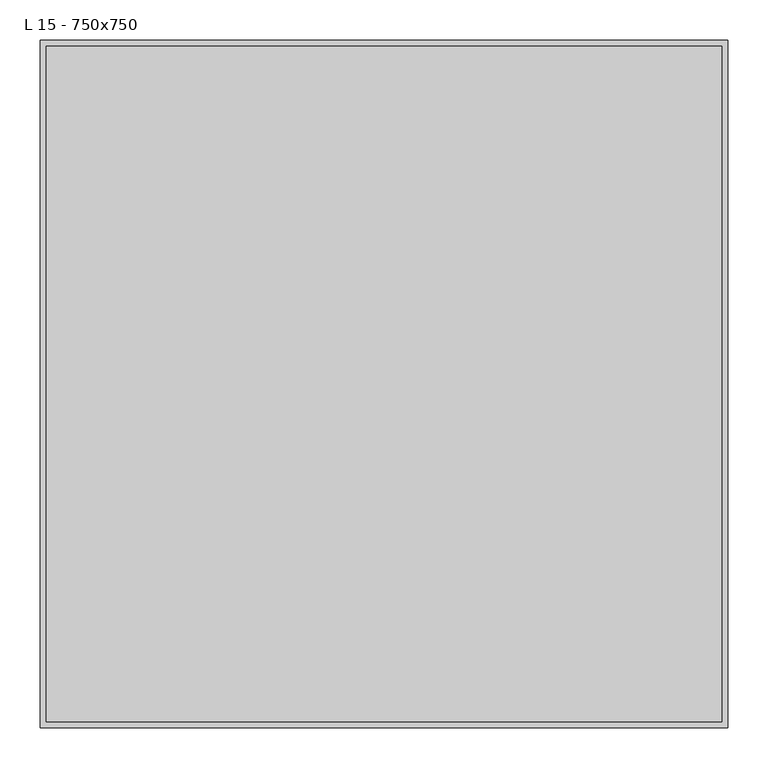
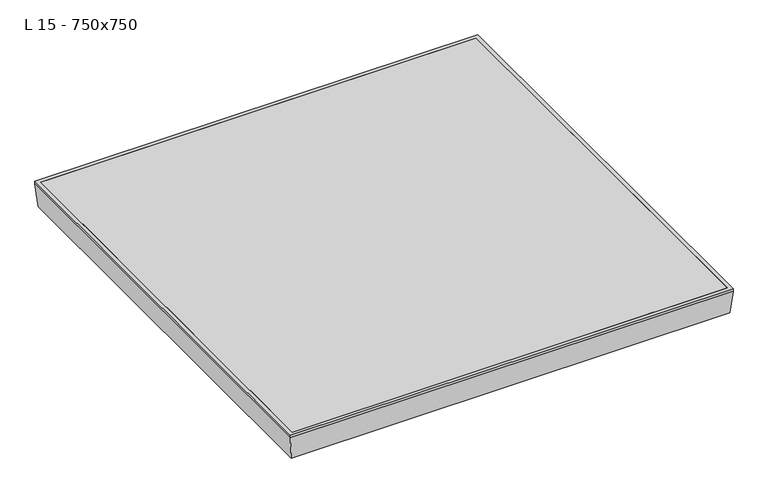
"""IFC4 building model written with IfcOpenShell, lengths in millimetres: proxy geometry, ME_AL_WPB_Access Cover UNIFACE AL_shallow_ACO : L 15 - 750x750."""

from ifc_helpers import new_model, si_unit, frame, origin, place, context, project, spatial, polyline, outline, extrude, faceted_brep, source, transform, mapped, element, save


def l_15_750x750_7d29b803(model_context):
    return source(origin(), model_context, "Body", "SolidModel", [
        extrude(outline(polyline([(375.0, 375.0), (375.0, -375.0), (-375.0, -375.0), (-375.0, 375.0), (375.0, 375.0)])), frame((0.0, 0.0, -50.0), z_axis=(0.0, 0.0, 1.0), x_axis=(1.0, 0.0, 0.0)), (0.0, 0.0, 1.0), 2.0),
        extrude(outline(polyline([(417.9, 417.9), (417.9, -417.9), (-417.9, -417.9), (-417.9, 417.9), (417.9, 417.9)])), frame((0.0, 0.0, -5.0), z_axis=(0.0, 0.0, 1.0), x_axis=(1.0, 0.0, 0.0)), (0.0, 0.0, 1.0), 5.0),
        faceted_brep([(-375.0, 375.0, -50.0), (-375.0, 375.0, -48.0), (-375.0, -375.0, -48.0), (-375.0, -375.0, -50.0), (375.0, -375.0, -48.0), (375.0, -375.0, -50.0), (375.0, 375.0, -48.0), (375.0, 375.0, -50.0), (-425.0, -425.0, 0.0), (425.0, -425.0, 0.0), (425.0, 425.0, 0.0), (-425.0, 425.0, 0.0), (-417.9, 417.9, 0.0), (417.9, 417.9, 0.0), (417.9, -417.9, 0.0), (-417.9, -417.9, 0.0), (-425.0, 425.0, -5.0), (-421.0630101, 421.0630101, -50.0), (-421.0630101, -421.0630101, -50.0), (-425.0, -425.0, -5.0), (-417.9, 417.9, -2.0), (-417.9, -417.9, -2.0), (-423.0, 423.0, -4.9126781), (-423.0, 423.0, -2.0), (-423.0, -423.0, -2.0), (-423.0, -423.0, -4.9126781), (-419.2303478, 419.2303478, -48.0), (-419.2303478, -419.2303478, -48.0), (421.0630101, -421.0630101, -50.0), (425.0, -425.0, -5.0), (417.9, -417.9, -2.0), (423.0, -423.0, -2.0), (423.0, -423.0, -4.9126781), (419.2303478, -419.2303478, -48.0), (421.0630101, 421.0630101, -50.0), (425.0, 425.0, -5.0), (417.9, 417.9, -2.0), (423.0, 423.0, -2.0), (423.0, 423.0, -4.9126781), (419.2303478, 419.2303478, -48.0)], [[[0, 1, 2, 3]], [[3, 2, 4, 5]], [[5, 4, 6, 7]], [[8, 9, 10, 11], [12, 13, 14, 15]], [[7, 6, 1, 0]], [[16, 17, 18, 19]], [[11, 16, 19, 8]], [[20, 12, 15, 21]], [[22, 23, 24, 25]], [[26, 22, 25, 27]], [[19, 18, 28, 29]], [[8, 19, 29, 9]], [[21, 15, 14, 30]], [[25, 24, 31, 32]], [[27, 25, 32, 33]], [[29, 28, 34, 35]], [[9, 29, 35, 10]], [[30, 14, 13, 36]], [[32, 31, 37, 38]], [[33, 32, 38, 39]], [[17, 34, 28, 18], [3, 5, 7, 0]], [[35, 34, 17, 16]], [[10, 35, 16, 11]], [[36, 13, 12, 20]], [[23, 37, 31, 24], [21, 30, 36, 20]], [[38, 37, 23, 22]], [[39, 38, 22, 26]], [[27, 33, 39, 26], [1, 6, 4, 2]]]),
    ])


if __name__ == "__main__":
    model = new_model("IFC4")
    model_context = context("Model", 3, world=origin())
    ifc_project = project(units=[si_unit("LENGTHUNIT", "METRE", prefix="MILLI")], contexts=[model_context])
    site = spatial("IfcSite", under=ifc_project)
    building = spatial("IfcBuilding", under=site)
    placement = place(None, origin())
    l_15_750x750_shape = l_15_750x750_7d29b803(model_context)
    element("IfcBuildingElementProxy", 1, Name="ME_AL_WPB_Access Cover UNIFACE AL_shallow_ACO : L 15 - 750x750", ObjectType="ME_AL_WPB_Access Cover UNIFACE AL_shallow_ACO : L 15 - 750x750", at=placement, inside=building, context=model_context, shape_type="MappedRepresentation", body=[
        mapped(l_15_750x750_shape, transform((0.0, 0.0, 0.0), x_axis=(1.0, 0.0, 0.0), y_axis=(0.0, 1.0, 0.0), z_axis=(0.0, 0.0, 1.0))),
    ])
    save(model, "model.ifc")
